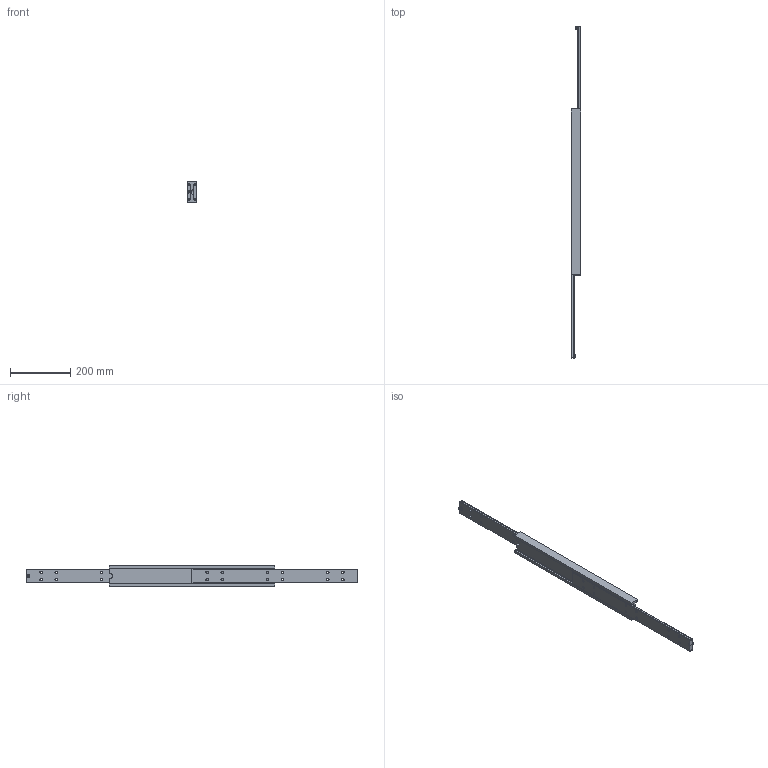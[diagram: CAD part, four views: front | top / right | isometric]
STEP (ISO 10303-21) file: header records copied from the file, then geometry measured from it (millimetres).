
FILE_DESCRIPTION(/* description */ (''),/* implementation_level */ '2;1');
FILE_NAME(/* name */ 'F:\MX-DTP70.055_ausgefahren.stp',/* time_stamp */ '2021-01-27T14:22:41+01:00',/* author */ ('Miluxor'),/* organization */ (''),/* preprocessor_version */ 'ST-DEVELOPER v16.13',/* originating_system */ 'AutoCAD Mechanical',/* authorisation */ '');
FILE_SCHEMA (('AUTOMOTIVE_DESIGN { 1 0 10303 214 3 1 1 }'));
Length unit declared in the file: millimetre
Products named in the file (1): Product
Bounding box: 32 x 1100 x 70 mm (x, y, z)
Volume: 959546.6 mm3; surface area: 336346 mm2
Topology: 47 solids, 47 shells, 314 faces, 808 edges, 536 vertices
Faces by surface type: plane 206, cylinder 66, sphere 28, bspline 8, torus 6
Full cylindrical faces by diameter (mm): 8 x24, 9 x28, 13 x2
Entity records: 16181 total; most frequent: CARTESIAN_POINT 8693, DIRECTION 1458, ORIENTED_EDGE 1380, EDGE_CURVE 690, VERTEX_POINT 534, LINE 500, VECTOR 500, EDGE_LOOP 482
